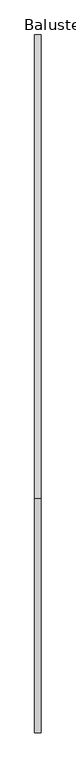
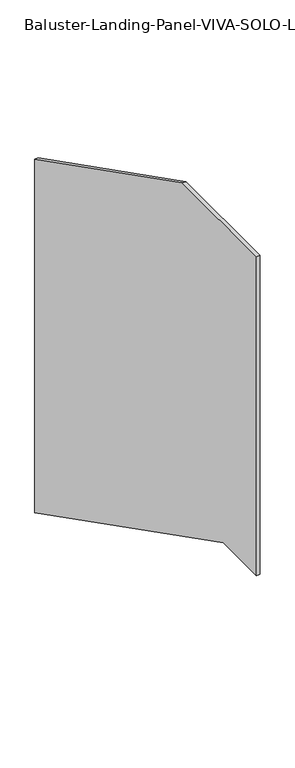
"""IFC4 building model written with IfcOpenShell, lengths in millimetres: railing geometry, Baluster-Landing-Panel-VIVA-SOLO-Lower : Standard_Glass."""

from ifc_helpers import new_model, si_unit, frame, origin, place, context, project, spatial, polyline, outline, extrude, source, transform, mapped, element, save


def baluster_landing_panel_viva_solo_lower_standard_glass_4be65d3f(model_context):
    return source(origin(), model_context, "Body", "SweptSolid", [
        extrude(outline(polyline([(-680.085, 1112.52), (5.0108793, 763.7473897), (5.0108793, -237.7228611), (-871.7012327, 208.5988597), (-1025.525, 208.5988597), (-1025.525, 1112.52), (-680.085, 1112.52)])), frame((33.3375, 0.0, 0.0), z_axis=(1.0, 0.0, 0.0), x_axis=(0.0, 1.0, 0.0)), (0.0, 0.0, 1.0), 9.525),
    ])


if __name__ == "__main__":
    model = new_model("IFC4")
    model_context = context("Model", 3, world=origin())
    ifc_project = project(units=[si_unit("LENGTHUNIT", "METRE", prefix="MILLI")], contexts=[model_context])
    site = spatial("IfcSite", under=ifc_project)
    building = spatial("IfcBuilding", under=site)
    placement = place(None, origin())
    baluster_landing_panel_viva_solo_lower_standard_glass_shape = baluster_landing_panel_viva_solo_lower_standard_glass_4be65d3f(model_context)
    element("IfcRailing", 1, ObjectType="Baluster-Landing-Panel-VIVA-SOLO-Lower : Standard_Glass", at=placement, inside=building, context=model_context, shape_type="MappedRepresentation", body=[
        mapped(baluster_landing_panel_viva_solo_lower_standard_glass_shape, transform((0.0, 0.0, 0.0), x_axis=(1.0, 0.0, 0.0), y_axis=(0.0, 1.0, 0.0), z_axis=(0.0, 0.0, 1.0))),
    ])
    save(model, "model.ifc")
